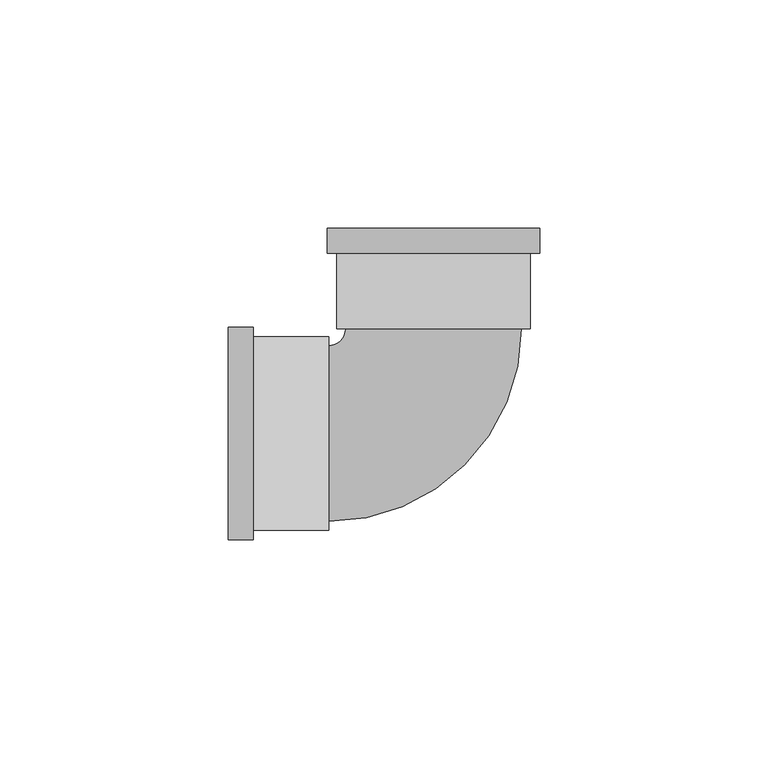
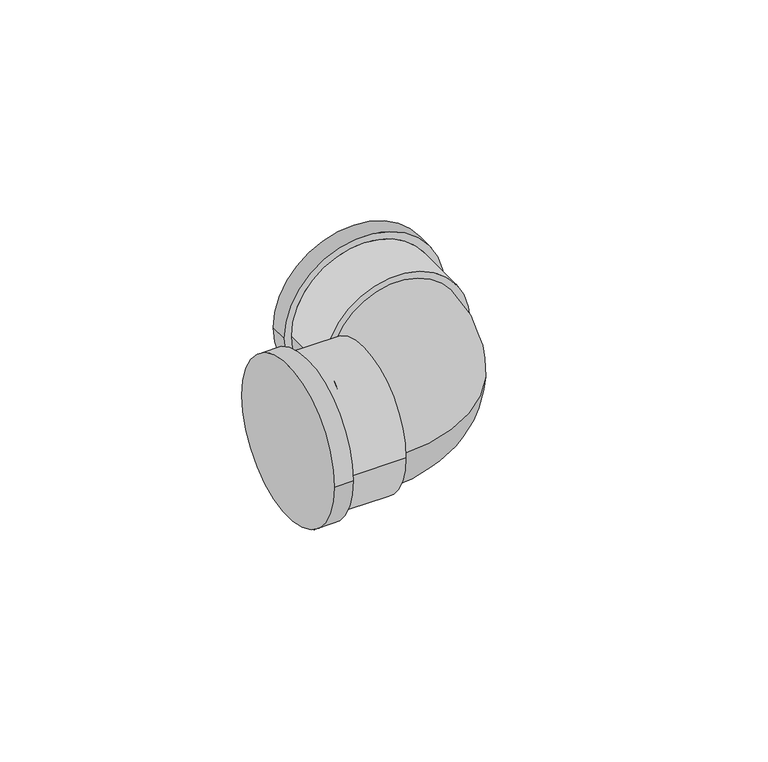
"""IFC4 building model written with IfcOpenShell, lengths in millimetres: pipe fitting geometry, Cotovelo - PVC - CW : Padrão."""

from ifc_helpers import new_model, si_unit, point, frame, origin, place, context, project, spatial, circle_curve, ellipse_curve, trimmed, source, transform, mapped, element, save
from ifc_brep_helpers import plane_surface, cylinder_surface, revolved_surface, advanced_brep


def pipe_fitting_144f4440(model_context):
    return source(origin(), model_context, "Body", "AdvancedBrep", [
        advanced_brep(
        [(-45.0, -23.2925, 0.0), (-45.0, 23.2925, 0.0), (-39.5, -23.2925, 0.0), (-39.5, 23.2925, 0.0), (-39.5, -21.175, 0.0), (-39.5, 21.175, 0.0), (-23.0, 21.175, 0.0), (-23.0, -21.175, 0.0), (-23.0, -19.25, 0.0), (-23.0, 19.25, 0.0), (-19.25, 23.0, 0.0), (19.25, 23.0, 0.0), (21.175, 23.0, 0.0), (-21.175, 23.0, 0.0), (-23.2925, 45.0, 0.0), (23.2925, 45.0, 0.0), (21.175, 39.5, 0.0), (-21.175, 39.5, 0.0), (-23.2925, 39.5, 0.0), (23.2925, 39.5, 0.0)],
        [
            (0, 1, circle_curve(frame((-45.0, 0.0, 0.0), z_axis=(-1.0, 0.0, 0.0), x_axis=(0.0, 1.0, 0.0)), 23.2925)),
            (1, 0, circle_curve(frame((-45.0, 0.0, 0.0), z_axis=(-1.0, 0.0, 0.0), x_axis=(0.0, 1.0, 0.0)), 23.2925)),
            (2, 3, circle_curve(frame((-39.5, 0.0, 0.0), z_axis=(1.0, 0.0, 0.0), x_axis=(0.0, 1.0, 0.0)), 23.2925)),
            (3, 2, circle_curve(frame((-39.5, 0.0, 0.0), z_axis=(1.0, 0.0, 0.0), x_axis=(0.0, 1.0, 0.0)), 23.2925)),
            (4, 5, circle_curve(frame((-39.5, 0.0, 0.0), z_axis=(-1.0, 0.0, 0.0), x_axis=(0.0, -1.0, 0.0)), 21.175)),
            (5, 4, circle_curve(frame((-39.5, 0.0, 0.0), z_axis=(-1.0, 0.0, 0.0), x_axis=(0.0, -1.0, 0.0)), 21.175)),
            (0, 2),
            (3, 1),
            (6, 7, circle_curve(frame((-23.0, 0.0, 0.0), z_axis=(1.0, 0.0, 0.0), x_axis=(0.0, -1.0, 0.0)), 21.175)),
            (7, 6, circle_curve(frame((-23.0, 0.0, 0.0), z_axis=(1.0, 0.0, 0.0), x_axis=(0.0, -1.0, 0.0)), 21.175)),
            (8, 9, circle_curve(frame((-23.0, 0.0, 0.0), z_axis=(-1.0, 0.0, 0.0), x_axis=(0.0, 1.0, 0.0)), 19.25)),
            (9, 8, circle_curve(frame((-23.0, 0.0, 0.0), z_axis=(-1.0, 0.0, 0.0), x_axis=(0.0, 1.0, 0.0)), 19.25)),
            (6, 5),
            (4, 7),
            (10, 9, circle_curve(frame((-23.0, 23.0, 0.0), z_axis=(0.0, 0.0, -1.0), x_axis=(0.0, -1.0, 0.0)), 3.75)),
            (8, 11, circle_curve(frame((-23.0, 23.0, 0.0), z_axis=(0.0, 0.0, 1.0), x_axis=(0.0, -1.0, 0.0)), 42.25)),
            (11, 10, circle_curve(frame((0.0, 23.0, 0.0), z_axis=(0.0, -1.0, 0.0), x_axis=(-1.0, 0.0, 0.0)), 19.25)),
            (10, 11, circle_curve(frame((0.0, 23.0, 0.0), z_axis=(0.0, -1.0, 0.0), x_axis=(-1.0, 0.0, 0.0)), 19.25)),
            (12, 13, circle_curve(frame((0.0, 23.0, 0.0), z_axis=(0.0, -1.0, 0.0), x_axis=(-1.0, 0.0, 0.0)), 21.175)),
            (13, 12, circle_curve(frame((0.0, 23.0, 0.0), z_axis=(0.0, -1.0, 0.0), x_axis=(-1.0, 0.0, 0.0)), 21.175)),
            (14, 15, circle_curve(frame((0.0, 45.0, 0.0), z_axis=(0.0, 1.0, 0.0), x_axis=(1.0, 0.0, 0.0)), 23.2925)),
            (15, 14, circle_curve(frame((0.0, 45.0, 0.0), z_axis=(0.0, 1.0, 0.0), x_axis=(1.0, 0.0, 0.0)), 23.2925)),
            (12, 16),
            (16, 17, circle_curve(frame((0.0, 39.5, 0.0), z_axis=(0.0, -1.0, 0.0), x_axis=(-1.0, 0.0, 0.0)), 21.175)),
            (17, 13),
            (17, 16, circle_curve(frame((0.0, 39.5, 0.0), z_axis=(0.0, -1.0, 0.0), x_axis=(-1.0, 0.0, 0.0)), 21.175)),
            (18, 19, circle_curve(frame((0.0, 39.5, 0.0), z_axis=(0.0, -1.0, 0.0), x_axis=(1.0, 0.0, 0.0)), 23.2925)),
            (19, 18, circle_curve(frame((0.0, 39.5, 0.0), z_axis=(0.0, -1.0, 0.0), x_axis=(1.0, 0.0, 0.0)), 23.2925)),
            (14, 18),
            (19, 15),
        ],
        [
            plane_surface(frame((-45.0, 0.0, 0.0), z_axis=(-1.0, 0.0, 0.0), x_axis=(0.0, 0.0, 1.0))),
            plane_surface(frame((-39.5, 0.0, 0.0), z_axis=(1.0, 0.0, 0.0), x_axis=(0.0, 0.0, 1.0))),
            cylinder_surface(frame((-45.0, 0.0, 0.0), z_axis=(-1.0, 0.0, 0.0), x_axis=(0.0, 1.0, 0.0)), 23.2925),
            plane_surface(frame((-23.0, 0.0, 0.0), z_axis=(1.0, 0.0, 0.0), x_axis=(0.0, 0.0, 1.0))),
            cylinder_surface(frame((-23.0, 0.0, 0.0), z_axis=(1.0, 0.0, 0.0), x_axis=(0.0, -1.0, 0.0)), 21.175),
            revolved_surface(trimmed(ellipse_curve(frame((-23.0, 0.0, 0.0), z_axis=(-1.0, 0.0, 0.0), x_axis=(0.0, 1.0, 0.0)), 19.25, 19.25), [point((-23.0, -19.25, 0.0))], [point((-23.0, 19.25, 0.0))], True, "CARTESIAN"), (-23.0, 23.0, 0.0), (0.0, 0.0, 1.0)),
            revolved_surface(trimmed(ellipse_curve(frame((-23.0, 0.0, 0.0), z_axis=(-1.0, 0.0, 0.0), x_axis=(0.0, 1.0, 0.0)), 19.25, 19.25), [point((-23.0, 19.25, 0.0))], [point((-23.0, -19.25, 0.0))], True, "CARTESIAN"), (-23.0, 23.0, 0.0), (0.0, 0.0, 1.0)),
            plane_surface(frame((0.0, 23.0, 0.0), z_axis=(0.0, -1.0, 0.0), x_axis=(0.0, 0.0, 1.0))),
            plane_surface(frame((0.0, 45.0, 0.0), z_axis=(0.0, 1.0, 0.0), x_axis=(0.0, 0.0, 1.0))),
            cylinder_surface(frame((0.0, 23.0, 0.0), z_axis=(0.0, -1.0, 0.0), x_axis=(-1.0, 0.0, 0.0)), 21.175),
            plane_surface(frame((0.0, 39.5, 0.0), z_axis=(0.0, -1.0, 0.0), x_axis=(0.0, 0.0, 1.0))),
            cylinder_surface(frame((0.0, 45.0, 0.0), z_axis=(0.0, 1.0, 0.0), x_axis=(1.0, 0.0, 0.0)), 23.2925),
        ],
        [
            (0, [[1, 2]]),
            (1, [[3, 4], [5, 6]]),
            (2, [[-1, 7, -4, 8]]),
            (2, [[-2, -8, -3, -7]]),
            (3, [[9, 10], [11, 12]]),
            (4, [[-9, 13, -5, 14]]),
            (4, [[-10, -14, -6, -13]]),
            (5, [[15, -11, 16, 17]]),
            (6, [[-15, 18, -16, -12]]),
            (7, [[19, 20], [-17, -18]]),
            (8, [[21, 22]]),
            (9, [[-19, 23, 24, 25]]),
            (9, [[-20, -25, 26, -23]]),
            (10, [[27, 28], [-24, -26]]),
            (11, [[-21, 29, -28, 30]]),
            (11, [[-22, -30, -27, -29]]),
        ],
    ),
    ])


if __name__ == "__main__":
    model = new_model("IFC4")
    model_context = context("Model", 3, world=origin())
    ifc_project = project(units=[si_unit("LENGTHUNIT", "METRE", prefix="MILLI")], contexts=[model_context])
    site = spatial("IfcSite", under=ifc_project)
    building = spatial("IfcBuilding", under=site)
    placement = place(None, origin())
    pipe_fitting_shape = pipe_fitting_144f4440(model_context)
    element("IfcPipeFitting", 1, ObjectType="Cotovelo - PVC - CW : Padrão", at=placement, inside=building, context=model_context, shape_type="MappedRepresentation", body=[
        mapped(pipe_fitting_shape, transform((0.0, 0.0, 0.0), x_axis=(1.0, 0.0, 0.0), y_axis=(0.0, 1.0, 0.0), z_axis=(0.0, 0.0, 1.0))),
    ])
    save(model, "model.ifc")
